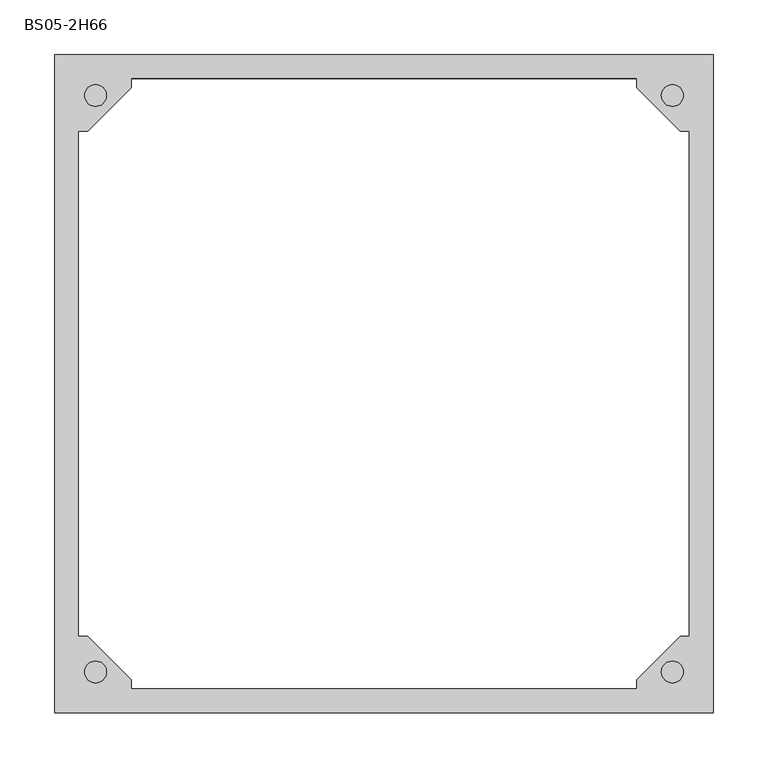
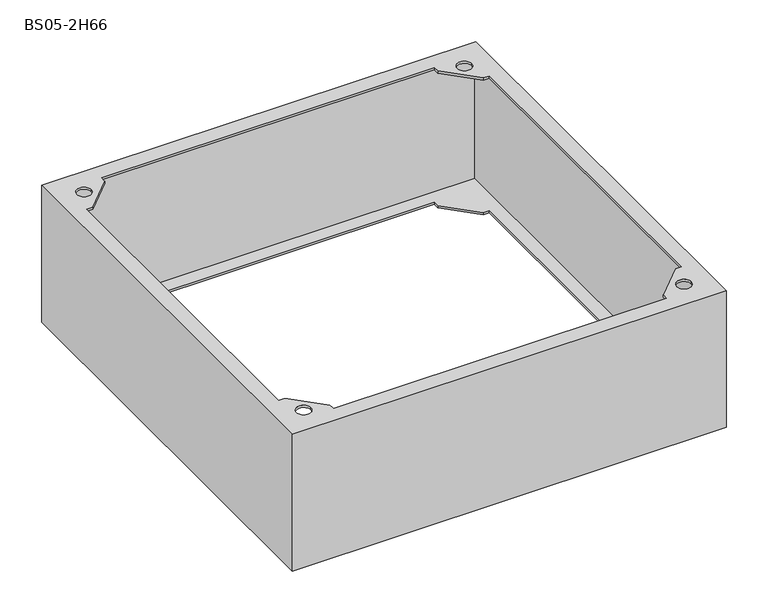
"""IFC4 building model written with IfcOpenShell, lengths in millimetres: proxy geometry, Цоколь для напольных шкафов : BS05-2H66."""

from ifc_helpers import new_model, si_unit, frame, origin, place, context, project, spatial, polyline, circle_curve, source, transform, mapped, element, save
from ifc_brep_helpers import plane_surface, revolved_surface, advanced_brep


def bs05_2h66_9faa6339(model_context):
    return source(origin(), model_context, "Body", "AdvancedBrep", [
        advanced_brep(
        [(300.0, -300.0, 200.0), (300.0, -300.0, 197.0), (300.0, -300.0, 3.0), (300.0, -300.0, 0.0), (300.0, 300.0, 0.0), (300.0, 300.0, 3.0), (300.0, 300.0, 197.0), (300.0, 300.0, 200.0), (278.0, 230.0, 0.0), (278.0, -230.0, 0.0), (278.0, -230.0, 3.0), (278.0, 230.0, 3.0), (297.0, 297.0, 197.0), (297.0, 297.0, 3.0), (297.0, -297.0, 3.0), (297.0, -297.0, 197.0), (278.0, 230.0, 197.0), (278.0, -230.0, 197.0), (278.0, -230.0, 200.0), (278.0, 230.0, 200.0), (-300.0, -300.0, 200.0), (-300.0, -300.0, 197.0), (-300.0, -300.0, 3.0), (-300.0, -300.0, 0.0), (230.0, -278.0, 0.0), (-230.0, -278.0, 0.0), (-230.0, -278.0, 3.0), (230.0, -278.0, 3.0), (-297.0, -297.0, 3.0), (-297.0, -297.0, 197.0), (230.0, -278.0, 197.0), (-230.0, -278.0, 197.0), (-230.0, -278.0, 200.0), (230.0, -278.0, 200.0), (-300.0, 300.0, 200.0), (-300.0, 300.0, 197.0), (-300.0, 300.0, 3.0), (-300.0, 300.0, 0.0), (-278.0, -230.0, 0.0), (-278.0, 230.0, 0.0), (-278.0, 230.0, 3.0), (-278.0, -230.0, 3.0), (-297.0, 297.0, 3.0), (-297.0, 297.0, 197.0), (-278.0, -230.0, 197.0), (-278.0, 230.0, 197.0), (-278.0, 230.0, 200.0), (-278.0, -230.0, 200.0), (-230.0, -270.0, 200.0), (-270.0, -230.0, 200.0), (-270.0, 230.0, 200.0), (-230.0, 270.0, 200.0), (-230.0, 278.0, 200.0), (230.0, 278.0, 200.0), (230.0, 270.0, 200.0), (270.0, 230.0, 200.0), (270.0, -230.0, 200.0), (230.0, -270.0, 200.0), (-252.9289322, -262.9289322, 200.0), (-272.9289322, -262.9289322, 200.0), (272.9289322, -262.9289322, 200.0), (252.9289322, -262.9289322, 200.0), (-252.9289322, 262.9289322, 200.0), (-272.9289322, 262.9289322, 200.0), (272.9289322, 262.9289322, 200.0), (252.9289322, 262.9289322, 200.0), (270.0, 230.0, 0.0), (230.0, 270.0, 0.0), (230.0, 278.0, 0.0), (-230.0, 278.0, 0.0), (-230.0, 270.0, 0.0), (-270.0, 230.0, 0.0), (-270.0, -230.0, 0.0), (-230.0, -270.0, 0.0), (230.0, -270.0, 0.0), (270.0, -230.0, 0.0), (230.0, 278.0, 3.0), (-230.0, 278.0, 3.0), (270.0, -230.0, 3.0), (230.0, -270.0, 3.0), (-230.0, -270.0, 3.0), (-270.0, -230.0, 3.0), (-270.0, 230.0, 3.0), (-230.0, 270.0, 3.0), (230.0, 270.0, 3.0), (270.0, 230.0, 3.0), (-270.0, -230.0, 197.0), (-230.0, -270.0, 197.0), (230.0, -270.0, 197.0), (270.0, -230.0, 197.0), (270.0, 230.0, 197.0), (230.0, 270.0, 197.0), (230.0, 278.0, 197.0), (-230.0, 278.0, 197.0), (-230.0, 270.0, 197.0), (-270.0, 230.0, 197.0), (-252.9289322, -262.9289322, 197.0), (-272.9289322, -262.9289322, 197.0), (272.9289322, -262.9289322, 197.0), (252.9289322, -262.9289322, 197.0), (-252.9289322, 262.9289322, 197.0), (-272.9289322, 262.9289322, 197.0), (272.9289322, 262.9289322, 197.0), (252.9289322, 262.9289322, 197.0)],
        [
            (0, 1),
            (1, 2),
            (2, 3),
            (3, 4),
            (4, 5),
            (5, 6),
            (6, 7),
            (7, 0),
            (8, 9),
            (9, 10),
            (10, 11),
            (11, 8),
            (12, 13),
            (13, 14),
            (14, 15),
            (15, 12),
            (16, 17),
            (17, 18),
            (18, 19),
            (19, 16),
            (0, 20),
            (20, 21),
            (21, 22),
            (22, 23),
            (23, 3),
            (24, 25),
            (25, 26),
            (26, 27),
            (27, 24),
            (14, 28),
            (28, 29),
            (29, 15),
            (30, 31),
            (31, 32),
            (32, 33),
            (33, 30),
            (20, 34),
            (34, 35),
            (35, 36),
            (36, 37),
            (37, 23),
            (38, 39),
            (39, 40),
            (40, 41),
            (41, 38),
            (28, 42),
            (42, 43),
            (43, 29),
            (44, 45),
            (45, 46),
            (46, 47),
            (47, 44),
            (7, 34),
            (48, 49),
            (49, 47),
            (46, 50),
            (50, 51),
            (51, 52),
            (52, 53),
            (53, 54),
            (54, 55),
            (55, 19),
            (18, 56),
            (56, 57),
            (57, 33),
            (32, 48),
            (58, 59, circle_curve(frame((-262.9289322, -262.9289322, 200.0), z_axis=(0.0, 0.0, -1.0), x_axis=(-1.0, 0.0, 0.0)), 10.0)),
            (59, 58, circle_curve(frame((-262.9289322, -262.9289322, 200.0), z_axis=(0.0, 0.0, -1.0), x_axis=(-1.0, 0.0, 0.0)), 10.0)),
            (60, 61, circle_curve(frame((262.9289322, -262.9289322, 200.0), z_axis=(0.0, 0.0, -1.0), x_axis=(-1.0, 0.0, 0.0)), 10.0)),
            (61, 60, circle_curve(frame((262.9289322, -262.9289322, 200.0), z_axis=(0.0, 0.0, -1.0), x_axis=(-1.0, 0.0, 0.0)), 10.0)),
            (62, 63, circle_curve(frame((-262.9289322, 262.9289322, 200.0), z_axis=(0.0, 0.0, -1.0), x_axis=(-1.0, 0.0, 0.0)), 10.0)),
            (63, 62, circle_curve(frame((-262.9289322, 262.9289322, 200.0), z_axis=(0.0, 0.0, -1.0), x_axis=(-1.0, 0.0, 0.0)), 10.0)),
            (64, 65, circle_curve(frame((262.9289322, 262.9289322, 200.0), z_axis=(0.0, 0.0, -1.0), x_axis=(-1.0, 0.0, 0.0)), 10.0)),
            (65, 64, circle_curve(frame((262.9289322, 262.9289322, 200.0), z_axis=(0.0, 0.0, -1.0), x_axis=(-1.0, 0.0, 0.0)), 10.0)),
            (4, 37),
            (8, 66),
            (66, 67),
            (67, 68),
            (68, 69),
            (69, 70),
            (70, 71),
            (71, 39),
            (38, 72),
            (72, 73),
            (73, 25),
            (24, 74),
            (74, 75),
            (75, 9),
            (68, 76),
            (76, 77),
            (77, 69),
            (13, 42),
            (10, 78),
            (78, 79),
            (79, 27),
            (26, 80),
            (80, 81),
            (81, 41),
            (40, 82),
            (82, 83),
            (83, 77),
            (76, 84),
            (84, 85),
            (85, 11),
            (12, 43),
            (86, 87),
            (87, 31),
            (30, 88),
            (88, 89),
            (89, 17),
            (16, 90),
            (90, 91),
            (91, 92),
            (92, 93),
            (93, 94),
            (94, 95),
            (95, 45),
            (44, 86),
            (96, 97, circle_curve(frame((-262.9289322, -262.9289322, 197.0), z_axis=(0.0, 0.0, 1.0), x_axis=(-1.0, 0.0, 0.0)), 10.0)),
            (97, 96, circle_curve(frame((-262.9289322, -262.9289322, 197.0), z_axis=(0.0, 0.0, 1.0), x_axis=(-1.0, 0.0, 0.0)), 10.0)),
            (98, 99, circle_curve(frame((262.9289322, -262.9289322, 197.0), z_axis=(0.0, 0.0, 1.0), x_axis=(-1.0, 0.0, 0.0)), 10.0)),
            (99, 98, circle_curve(frame((262.9289322, -262.9289322, 197.0), z_axis=(0.0, 0.0, 1.0), x_axis=(-1.0, 0.0, 0.0)), 10.0)),
            (100, 101, circle_curve(frame((-262.9289322, 262.9289322, 197.0), z_axis=(0.0, 0.0, 1.0), x_axis=(-1.0, 0.0, 0.0)), 10.0)),
            (101, 100, circle_curve(frame((-262.9289322, 262.9289322, 197.0), z_axis=(0.0, 0.0, 1.0), x_axis=(-1.0, 0.0, 0.0)), 10.0)),
            (102, 103, circle_curve(frame((262.9289322, 262.9289322, 197.0), z_axis=(0.0, 0.0, 1.0), x_axis=(-1.0, 0.0, 0.0)), 10.0)),
            (103, 102, circle_curve(frame((262.9289322, 262.9289322, 197.0), z_axis=(0.0, 0.0, 1.0), x_axis=(-1.0, 0.0, 0.0)), 10.0)),
            (52, 93),
            (92, 53),
            (87, 48),
            (86, 49),
            (89, 56),
            (88, 57),
            (95, 50),
            (94, 51),
            (91, 54),
            (90, 55),
            (58, 96),
            (97, 59),
            (60, 98),
            (99, 61),
            (62, 100),
            (101, 63),
            (64, 102),
            (103, 65),
            (73, 80),
            (72, 81),
            (75, 78),
            (74, 79),
            (71, 82),
            (70, 83),
            (67, 84),
            (66, 85),
        ],
        [
            plane_surface(frame((300.0, 300.0, 200.0), z_axis=(1.0, 0.0, 0.0), x_axis=(0.0, -1.0, 0.0))),
            plane_surface(frame((278.0, 278.0, 0.0), z_axis=(-1.0, 0.0, 0.0), x_axis=(0.0, -1.0, 0.0))),
            plane_surface(frame((297.0, 297.0, 3.0), z_axis=(-1.0, 0.0, 0.0), x_axis=(0.0, -1.0, 0.0))),
            plane_surface(frame((278.0, 278.0, 197.0), z_axis=(-1.0, 0.0, 0.0), x_axis=(0.0, -1.0, 0.0))),
            plane_surface(frame((300.0, -300.0, 200.0), z_axis=(0.0, -1.0, 0.0), x_axis=(-1.0, 0.0, 0.0))),
            plane_surface(frame((278.0, -278.0, 0.0), z_axis=(0.0, 1.0, 0.0), x_axis=(-1.0, 0.0, 0.0))),
            plane_surface(frame((297.0, -297.0, 3.0), z_axis=(0.0, 1.0, 0.0), x_axis=(-1.0, 0.0, 0.0))),
            plane_surface(frame((278.0, -278.0, 197.0), z_axis=(0.0, 1.0, 0.0), x_axis=(-1.0, 0.0, 0.0))),
            plane_surface(frame((-300.0, -300.0, 200.0), z_axis=(-1.0, 0.0, 0.0), x_axis=(0.0, 1.0, 0.0))),
            plane_surface(frame((-278.0, -278.0, 0.0), z_axis=(1.0, 0.0, 0.0), x_axis=(0.0, 1.0, 0.0))),
            plane_surface(frame((-297.0, -297.0, 3.0), z_axis=(1.0, 0.0, 0.0), x_axis=(0.0, 1.0, 0.0))),
            plane_surface(frame((-278.0, -278.0, 197.0), z_axis=(1.0, 0.0, 0.0), x_axis=(0.0, 1.0, 0.0))),
            plane_surface(frame((-278.0, 278.0, 200.0), z_axis=(0.0, 0.0, 1.0), x_axis=(1.0, 0.0, 0.0))),
            plane_surface(frame((-300.0, 300.0, 200.0), z_axis=(0.0, 1.0, 0.0), x_axis=(1.0, 0.0, 0.0))),
            plane_surface(frame((-300.0, 300.0, 0.0), z_axis=(0.0, 0.0, -1.0), x_axis=(1.0, 0.0, 0.0))),
            plane_surface(frame((-278.0, 278.0, 0.0), z_axis=(0.0, -1.0, 0.0), x_axis=(1.0, 0.0, 0.0))),
            plane_surface(frame((-278.0, 278.0, 3.0), z_axis=(0.0, 0.0, 1.0), x_axis=(1.0, 0.0, 0.0))),
            plane_surface(frame((-297.0, 297.0, 3.0), z_axis=(0.0, -1.0, 0.0), x_axis=(1.0, 0.0, 0.0))),
            plane_surface(frame((-297.0, 297.0, 197.0), z_axis=(0.0, 0.0, -1.0), x_axis=(1.0, 0.0, 0.0))),
            plane_surface(frame((-278.0, 278.0, 197.0), z_axis=(0.0, -1.0, 0.0), x_axis=(1.0, 0.0, 0.0))),
            plane_surface(frame((-230.0, -300.0, 200.0), z_axis=(1.0, 0.0, 0.0), x_axis=(0.0, 0.0, -1.0))),
            plane_surface(frame((-230.0, -270.0, 200.0), z_axis=(0.7071067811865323, 0.7071067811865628, 0.0), x_axis=(0.0, 0.0, -1.0))),
            plane_surface(frame((-270.0, -230.0, 200.0), z_axis=(0.0, 1.0, 0.0), x_axis=(0.0, 0.0, -1.0))),
            plane_surface(frame((300.0, -230.0, 200.0), z_axis=(0.0, 1.0, 0.0), x_axis=(0.0, 0.0, -1.0))),
            plane_surface(frame((270.0, -230.0, 200.0), z_axis=(-0.7071067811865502, 0.7071067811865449, 0.0), x_axis=(0.0, 0.0, -1.0))),
            plane_surface(frame((230.0, -270.0, 200.0), z_axis=(-1.0, 0.0, 0.0), x_axis=(0.0, 0.0, -1.0))),
            plane_surface(frame((-300.0, 230.0, 200.0), z_axis=(0.0, -1.0, 0.0), x_axis=(0.0, 0.0, -1.0))),
            plane_surface(frame((-270.0, 230.0, 200.0), z_axis=(0.7071067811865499, -0.7071067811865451, 0.0), x_axis=(0.0, 0.0, -1.0))),
            plane_surface(frame((-230.0, 270.0, 200.0), z_axis=(1.0, 0.0, 0.0), x_axis=(0.0, 0.0, -1.0))),
            plane_surface(frame((230.0, 300.0, 200.0), z_axis=(-1.0, 0.0, 0.0), x_axis=(0.0, 0.0, -1.0))),
            plane_surface(frame((230.0, 270.0, 200.0), z_axis=(-0.7071067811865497, -0.7071067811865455, 0.0), x_axis=(0.0, 0.0, -1.0))),
            plane_surface(frame((270.0, 230.0, 200.0), z_axis=(0.0, -1.0, 0.0), x_axis=(0.0, 0.0, -1.0))),
            revolved_surface(polyline([(-272.9289322, -262.9289322, 197.0), (-272.9289322, -262.9289322, 200.0)]), (-262.9289322, -262.9289322, 200.0), (0.0, 0.0, -1.0)),
            revolved_surface(polyline([(252.92893220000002, -262.9289322, 197.0), (252.92893220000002, -262.9289322, 200.0)]), (262.9289322, -262.9289322, 200.0), (0.0, 0.0, -1.0)),
            revolved_surface(polyline([(-272.9289322, 262.9289322, 197.0), (-272.9289322, 262.9289322, 200.0)]), (-262.9289322, 262.9289322, 200.0), (0.0, 0.0, -1.0)),
            revolved_surface(polyline([(252.92893220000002, 262.9289322, 197.0), (252.92893220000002, 262.9289322, 200.0)]), (262.9289322, 262.9289322, 200.0), (0.0, 0.0, -1.0)),
            plane_surface(frame((-230.0, -300.0, 3.0), z_axis=(1.0, 0.0, 0.0), x_axis=(0.0, 0.0, -1.0))),
            plane_surface(frame((-230.0, -270.0, 3.0), z_axis=(0.7071067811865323, 0.7071067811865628, 0.0), x_axis=(0.0, 0.0, -1.0))),
            plane_surface(frame((-270.0, -230.0, 3.0), z_axis=(0.0, 1.0, 0.0), x_axis=(0.0, 0.0, -1.0))),
            plane_surface(frame((300.0, -230.0, 3.0), z_axis=(0.0, 1.0, 0.0), x_axis=(0.0, 0.0, -1.0))),
            plane_surface(frame((270.0, -230.0, 3.0), z_axis=(-0.7071067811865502, 0.7071067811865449, 0.0), x_axis=(0.0, 0.0, -1.0))),
            plane_surface(frame((230.0, -270.0, 3.0), z_axis=(-1.0, 0.0, 0.0), x_axis=(0.0, 0.0, -1.0))),
            plane_surface(frame((-300.0, 230.0, 3.0), z_axis=(0.0, -1.0, 0.0), x_axis=(0.0, 0.0, -1.0))),
            plane_surface(frame((-270.0, 230.0, 3.0), z_axis=(0.7071067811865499, -0.7071067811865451, 0.0), x_axis=(0.0, 0.0, -1.0))),
            plane_surface(frame((-230.0, 270.0, 3.0), z_axis=(1.0, 0.0, 0.0), x_axis=(0.0, 0.0, -1.0))),
            plane_surface(frame((230.0, 300.0, 3.0), z_axis=(-1.0, 0.0, 0.0), x_axis=(0.0, 0.0, -1.0))),
            plane_surface(frame((230.0, 270.0, 3.0), z_axis=(-0.7071067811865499, -0.7071067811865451, 0.0), x_axis=(0.0, 0.0, -1.0))),
            plane_surface(frame((270.0, 230.0, 3.0), z_axis=(0.0, -1.0, 0.0), x_axis=(0.0, 0.0, -1.0))),
        ],
        [
            (0, [[1, 2, 3, 4, 5, 6, 7, 8]]),
            (1, [[9, 10, 11, 12]]),
            (2, [[13, 14, 15, 16]]),
            (3, [[17, 18, 19, 20]]),
            (4, [[-1, 21, 22, 23, 24, 25, -3, -2]]),
            (5, [[26, 27, 28, 29]]),
            (6, [[-15, 30, 31, 32]]),
            (7, [[33, 34, 35, 36]]),
            (8, [[-22, 37, 38, 39, 40, 41, -24, -23]]),
            (9, [[42, 43, 44, 45]]),
            (10, [[-31, 46, 47, 48]]),
            (11, [[49, 50, 51, 52]]),
            (12, [[-8, 53, -37, -21], [54, 55, -51, 56, 57, 58, 59, 60, 61, 62, -19, 63, 64, 65, -35, 66], [67, 68], [69, 70], [71, 72], [73, 74]]),
            (13, [[-38, -53, -7, -6, -5, 75, -40, -39]]),
            (14, [[-4, -25, -41, -75], [-9, 76, 77, 78, 79, 80, 81, 82, -42, 83, 84, 85, -26, 86, 87, 88]]),
            (15, [[-79, 89, 90, 91]]),
            (16, [[-14, 92, -46, -30], [-11, 93, 94, 95, -28, 96, 97, 98, -44, 99, 100, 101, -90, 102, 103, 104]]),
            (17, [[-92, -13, 105, -47]]),
            (18, [[-32, -48, -105, -16], [106, 107, -33, 108, 109, 110, -17, 111, 112, 113, 114, 115, 116, 117, -49, 118], [119, 120], [121, 122], [123, 124], [125, 126]]),
            (19, [[-59, 127, -114, 128]]),
            (20, [[129, -66, -34, -107]]),
            (21, [[-54, -129, -106, 130]]),
            (22, [[-130, -118, -52, -55]]),
            (23, [[131, -63, -18, -110]]),
            (24, [[-64, -131, -109, 132]]),
            (25, [[-132, -108, -36, -65]]),
            (26, [[133, -56, -50, -117]]),
            (27, [[-57, -133, -116, 134]]),
            (28, [[-134, -115, -127, -58]]),
            (29, [[135, -60, -128, -113]]),
            (30, [[-61, -135, -112, 136]]),
            (31, [[-136, -111, -20, -62]]),
            (32, [[-67, 137, -120, 138]]),
            (32, [[-68, -138, -119, -137]]),
            (33, [[-69, 139, -122, 140]]),
            (33, [[-70, -140, -121, -139]]),
            (34, [[-71, 141, -124, 142]]),
            (34, [[-72, -142, -123, -141]]),
            (35, [[-73, 143, -126, 144]]),
            (35, [[-74, -144, -125, -143]]),
            (36, [[145, -96, -27, -85]]),
            (37, [[-97, -145, -84, 146]]),
            (38, [[-146, -83, -45, -98]]),
            (39, [[147, -93, -10, -88]]),
            (40, [[-94, -147, -87, 148]]),
            (41, [[-148, -86, -29, -95]]),
            (42, [[149, -99, -43, -82]]),
            (43, [[-100, -149, -81, 150]]),
            (44, [[-150, -80, -91, -101]]),
            (45, [[151, -102, -89, -78]]),
            (46, [[-103, -151, -77, 152]]),
            (47, [[-152, -76, -12, -104]]),
        ],
    ),
    ])


if __name__ == "__main__":
    model = new_model("IFC4")
    model_context = context("Model", 3, world=origin())
    ifc_project = project(units=[si_unit("LENGTHUNIT", "METRE", prefix="MILLI")], contexts=[model_context])
    site = spatial("IfcSite", under=ifc_project)
    building = spatial("IfcBuilding", under=site)
    placement = place(None, origin())
    bs05_2h66_shape = bs05_2h66_9faa6339(model_context)
    element("IfcBuildingElementProxy", 1, Name="Цоколь для напольных шкафов : BS05-2H66", ObjectType="Цоколь для напольных шкафов : BS05-2H66", at=placement, inside=building, context=model_context, shape_type="MappedRepresentation", body=[
        mapped(bs05_2h66_shape, transform((0.0, 0.0, 0.0), x_axis=(1.0, 0.0, 0.0), y_axis=(0.0, 1.0, 0.0), z_axis=(0.0, 0.0, 1.0))),
    ])
    save(model, "model.ifc")
